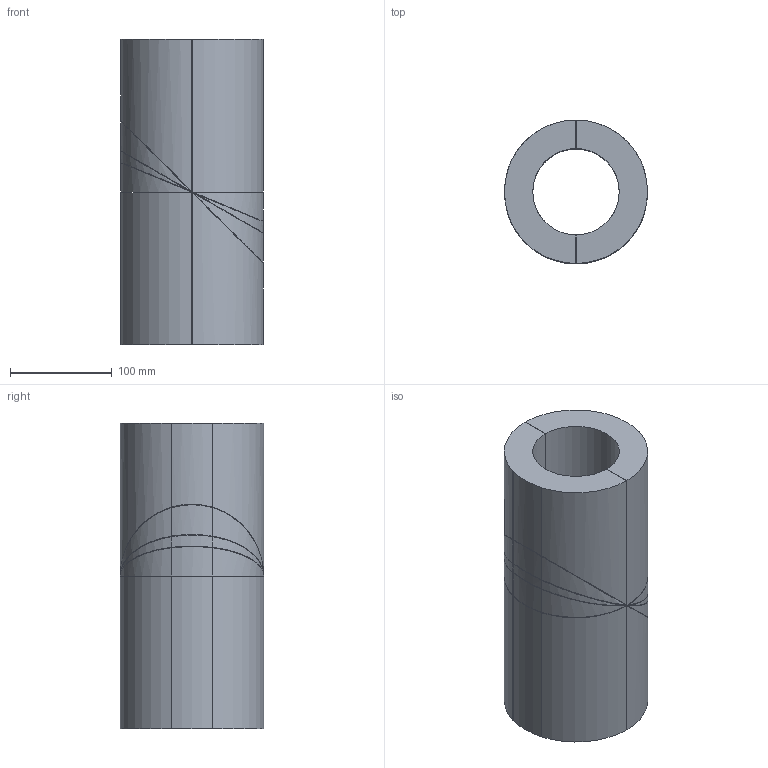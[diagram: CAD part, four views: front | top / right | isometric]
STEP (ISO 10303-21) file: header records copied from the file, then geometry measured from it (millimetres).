
FILE_DESCRIPTION(/* description */ (''),/* implementation_level */ '2;1');
FILE_NAME(/* name */ 'Z:\Geberit\Export\NewStep\306820.stp',/* time_stamp */ '2014-04-01T20:04:07+02:00',/* author */ ('bruh'),/* organization */ (''),/* preprocessor_version */ 'ST-DEVELOPER v15.2',/* originating_system */ 'Autodesk Inventor 2014',/* authorisation */ '');
FILE_SCHEMA (('AUTOMOTIVE_DESIGN { 1 0 10303 214 3 1 1 }'));
Length unit declared in the file: millimetre
Products named in the file (1): 306820
Bounding box: 140.5 x 141 x 300 mm (x, y, z)
Volume: 2944694.7 mm3; surface area: 355880.4 mm2
Topology: 10 solids, 10 shells, 116 faces, 288 edges, 192 vertices
Faces by surface type: plane 56, cylinder 40, bspline 20
Entity records: 3684 total; most frequent: CARTESIAN_POINT 721, DIRECTION 622, ORIENTED_EDGE 576, EDGE_CURVE 288, AXIS2_PLACEMENT_3D 237, VERTEX_POINT 192, LINE 148, VECTOR 148
